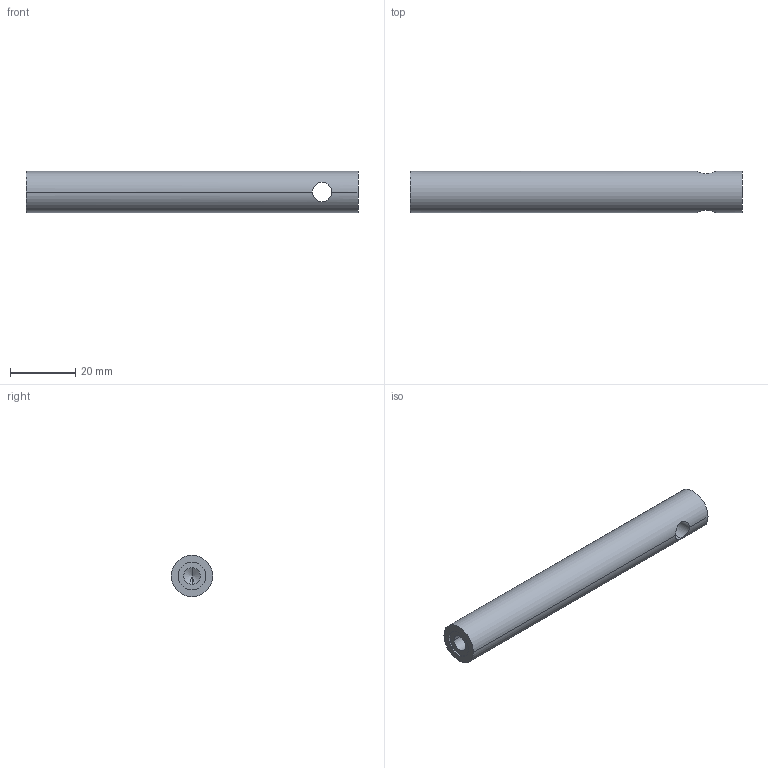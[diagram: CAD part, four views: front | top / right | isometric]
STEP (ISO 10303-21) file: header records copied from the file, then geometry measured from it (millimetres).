
FILE_DESCRIPTION (( 'STEP AP203' ), '1' );
FILE_NAME ('3MP-INCH-05-4.STEP', '2010-11-26T14:02:51', ( 'Darius' ), ( '' ), 'SwSTEP 2.0', 'SolidWorks 2003240', '' );
FILE_SCHEMA (( 'CONFIG_CONTROL_DESIGN' ));
Length unit declared in the file: millimetre
Products named in the file (1): 3MP-INCH-05-4
Bounding box: 101.6 x 12.7 x 12.7 mm (x, y, z)
Volume: 12268 mm3; surface area: 4676 mm2
Topology: 1 solids, 1 shells, 15 faces, 42 edges, 27 vertices
Faces by surface type: cylinder 10, plane 3, cone 2
Entity records: 723 total; most frequent: CARTESIAN_POINT 263, ORIENTED_EDGE 80, DIRECTION 78, EDGE_CURVE 40, AXIS2_PLACEMENT_3D 32, VERTEX_POINT 27, EDGE_LOOP 19, CIRCLE 16
